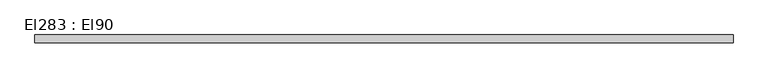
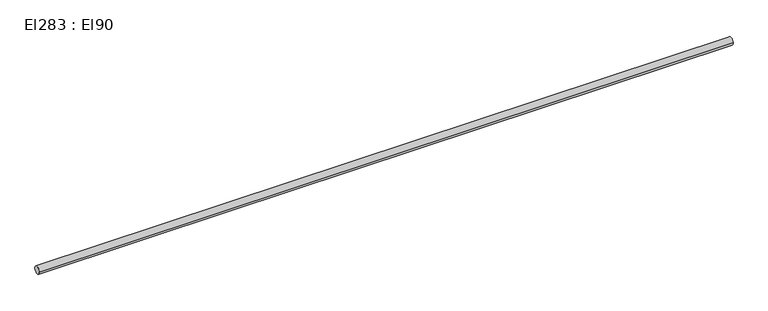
"""IFC4 building model written with IfcOpenShell, lengths in millimetres: cable carrier segment geometry, El283 : El90."""

from ifc_helpers import new_model, si_unit, point, frame, frame_2d, origin, place, context, project, spatial, circle_curve, trimmed, segment, composite_curve, outline, extrude, source, transform, mapped, element, save


def el283_el90_8584b409(model_context):
    return source(origin(), model_context, "Body", "SweptSolid", [
        extrude(outline(composite_curve([segment(trimmed(circle_curve(frame_2d((6766.0121745, 1800.0)), 9.5), [point((6756.5121745, 1800.0))], [point((6775.5121745, 1800.0))], False, "CARTESIAN"), True, "CONTINUOUS"), segment(trimmed(circle_curve(frame_2d((6766.0121745, 1800.0)), 9.5), [point((6775.5121745, 1800.0))], [point((6756.5121745, 1800.0))], False, "CARTESIAN"), True, "CONTINUOUS")], self_intersect=False)), frame((20812.5346511, 0.0, 0.0), z_axis=(1.0, 0.0, 0.0), x_axis=(0.0, 1.0, 0.0)), (0.0, 0.0, 1.0), 1706.28),
    ])


if __name__ == "__main__":
    model = new_model("IFC4")
    model_context = context("Model", 3, world=origin())
    ifc_project = project(units=[si_unit("LENGTHUNIT", "METRE", prefix="MILLI")], contexts=[model_context])
    site = spatial("IfcSite", under=ifc_project)
    building = spatial("IfcBuilding", under=site)
    placement = place(None, origin())
    el283_el90_shape = el283_el90_8584b409(model_context)
    element("IfcCableCarrierSegment", 1, ObjectType="El283 : El90", at=placement, inside=building, context=model_context, shape_type="MappedRepresentation", body=[
        mapped(el283_el90_shape, transform((0.0, 0.0, 0.0), x_axis=(1.0, 0.0, 0.0), y_axis=(0.0, 1.0, 0.0), z_axis=(0.0, 0.0, 1.0))),
    ])
    save(model, "model.ifc")
